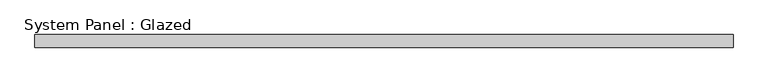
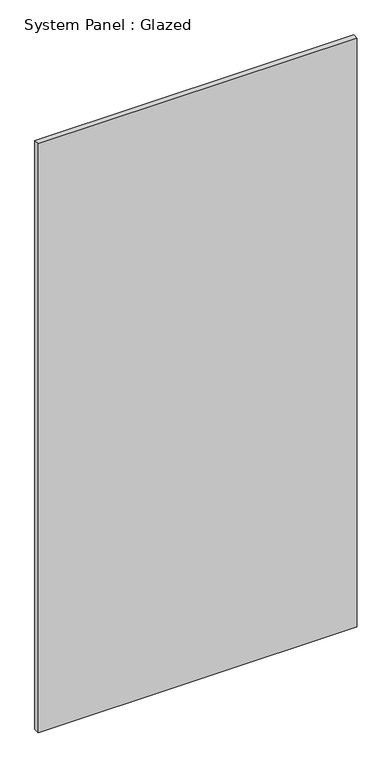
"""IFC4 building model written with IfcOpenShell, lengths in millimetres: plate geometry, System Panel : Glazed."""

from ifc_helpers import new_model, si_unit, origin, origin_with_axes, place, context, project, spatial, polyline, outline, extrude, source, transform, mapped, element, save


def system_panel_glazed_6573672e(model_context):
    return source(origin(), model_context, "Body", "SweptSolid", [
        extrude(outline(polyline([(684.9166666, 19.05), (-684.9166666, 19.05), (-684.9166666, 44.45), (684.9166666, 44.45), (684.9166666, 19.05)])), origin_with_axes(), (0.0, 0.0, 1.0), 2673.0),
    ])


if __name__ == "__main__":
    model = new_model("IFC4")
    model_context = context("Model", 3, world=origin())
    ifc_project = project(units=[si_unit("LENGTHUNIT", "METRE", prefix="MILLI")], contexts=[model_context])
    site = spatial("IfcSite", under=ifc_project)
    building = spatial("IfcBuilding", under=site)
    placement = place(None, origin())
    system_panel_glazed_shape = system_panel_glazed_6573672e(model_context)
    element("IfcPlate", 1, ObjectType="System Panel : Glazed", at=placement, inside=building, context=model_context, shape_type="MappedRepresentation", body=[
        mapped(system_panel_glazed_shape, transform((0.0, 0.0, 0.0), x_axis=(1.0, 0.0, 0.0), y_axis=(0.0, 1.0, 0.0), z_axis=(0.0, 0.0, 1.0))),
    ])
    save(model, "model.ifc")
